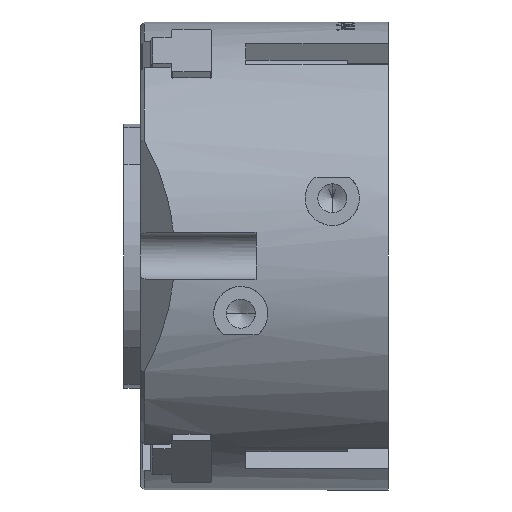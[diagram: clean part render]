
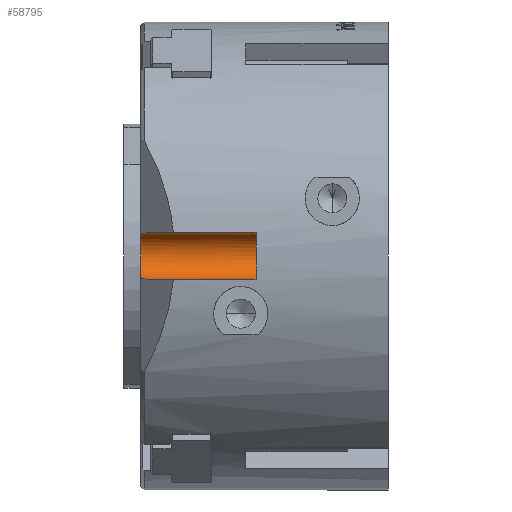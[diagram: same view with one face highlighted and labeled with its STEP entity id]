
A CAD part, left-side view. The second image highlights one B-rep face of the part: STEP entity #58795.
In plain terms, the highlighted cylindrical face has radius 7 mm (diameter 14 mm), a partial arc.
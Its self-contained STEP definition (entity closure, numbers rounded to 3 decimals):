
#1996 = AXIS2_PLACEMENT_3D ( 'NONE', #30596, #85258, #38436 ) ;
#4075 = CARTESIAN_POINT ( 'NONE',  ( -62., 39., 7. ) ) ;
#4347 = CIRCLE ( 'NONE', #75677, 7. ) ;
#8378 = VERTEX_POINT ( 'NONE', #28562 ) ;
#12221 = DIRECTION ( 'NONE',  ( 0., 1., 0. ) ) ;
#12641 = EDGE_CURVE ( 'NONE', #8378, #69696, #58183, .T. ) ;
#12899 = DIRECTION ( 'NONE',  ( 0., 0., 1. ) ) ;
#13167 = CYLINDRICAL_SURFACE ( 'NONE', #75537, 7. ) ;
#16803 = CARTESIAN_POINT ( 'NONE',  ( -62., 70., -7. ) ) ;
#22821 = CARTESIAN_POINT ( 'NONE',  ( -59., 73., 6.325 ) ) ;
#24705 = CARTESIAN_POINT ( 'NONE',  ( -62., 39., -7. ) ) ;
#28244 = ORIENTED_EDGE ( 'NONE', *, *, #47086, .F. ) ;
#28562 = CARTESIAN_POINT ( 'NONE',  ( -62., 39., 7. ) ) ;
#30596 = CARTESIAN_POINT ( 'NONE',  ( -62., 73., 0. ) ) ;
#31632 = VERTEX_POINT ( 'NONE', #22821 ) ;
#32594 = DIRECTION ( 'NONE',  ( 0., -1., 0. ) ) ;
#32935 = DIRECTION ( 'NONE',  ( 0., 1., 0. ) ) ;
#34509 = CARTESIAN_POINT ( 'NONE',  ( -62., 39., -7. ) ) ;
#35785 = EDGE_CURVE ( 'NONE', #69696, #31632, #90345, .T. ) ;
#36722 = CARTESIAN_POINT ( 'NONE',  ( -62., 39., 0. ) ) ;
#38436 = DIRECTION ( 'NONE',  ( 0., 0., 1. ) ) ;
#40032 = CARTESIAN_POINT ( 'NONE',  ( -59., 73., -6.325 ) ) ;
#41950 = EDGE_CURVE ( 'NONE', #67144, #73287, #88067, .T. ) ;
#43670 = CARTESIAN_POINT ( 'NONE',  ( -62., 70., -7. ) ) ;
#44581 = DIRECTION ( 'NONE',  ( 0., 0., 1. ) ) ;
#46079 = CARTESIAN_POINT ( 'NONE',  ( -59., 73., 6.325 ) ) ;
#47086 = EDGE_CURVE ( 'NONE', #47637, #31632, #89152, .T. ) ;
#47351 = CARTESIAN_POINT ( 'NONE',  ( -59., 73., -6.325 ) ) ;
#47637 = VERTEX_POINT ( 'NONE', #40032 ) ;
#58183 = LINE ( 'NONE', #4075, #78928 ) ;
#58393 = ORIENTED_EDGE ( 'NONE', *, *, #41950, .T. ) ;
#58663 = ORIENTED_EDGE ( 'NONE', *, *, #70271, .F. ) ;
#58795 = ADVANCED_FACE ( 'NONE', ( #75619 ), #13167, .F. ) ;
#59870 = CARTESIAN_POINT ( 'NONE',  ( -62., 39., 0. ) ) ;
#62475 = EDGE_LOOP ( 'NONE', ( #71765, #58393, #58663, #76788, #64916, #28244 ) ) ;
#63772 = CARTESIAN_POINT ( 'NONE',  ( -60.958, 71.042, -7. ) ) ;
#64916 = ORIENTED_EDGE ( 'NONE', *, *, #35785, .T. ) ;
#67144 = VERTEX_POINT ( 'NONE', #43670 ) ;
#69696 = VERTEX_POINT ( 'NONE', #79610 ) ;
#69770 = VECTOR ( 'NONE', #32594, 1000. ) ;
#70271 = EDGE_CURVE ( 'NONE', #8378, #73287, #4347, .T. ) ;
#70904 = CARTESIAN_POINT ( 'NONE',  ( -59.941, 72.059, -6.771 ) ) ;
#71765 = ORIENTED_EDGE ( 'NONE', *, *, #100275, .T. ) ;
#73287 = VERTEX_POINT ( 'NONE', #34509 ) ;
#75537 = AXIS2_PLACEMENT_3D ( 'NONE', #59870, #12221, #12899 ) ;
#75619 = FACE_OUTER_BOUND ( 'NONE', #62475, .T. ) ;
#75677 = AXIS2_PLACEMENT_3D ( 'NONE', #36722, #91390, #44581 ) ;
#76788 = ORIENTED_EDGE ( 'NONE', *, *, #12641, .T. ) ;
#77144 = CARTESIAN_POINT ( 'NONE',  ( -62., 70., 7. ) ) ;
#78928 = VECTOR ( 'NONE', #32935, 1000. ) ;
#79610 = CARTESIAN_POINT ( 'NONE',  ( -62., 70., 7. ) ) ;
#85026 = CARTESIAN_POINT ( 'NONE',  ( -60.958, 71.042, 7. ) ) ;
#85258 = DIRECTION ( 'NONE',  ( 0., -1., 0. ) ) ;
#88067 = LINE ( 'NONE', #24705, #69770 ) ;
#89152 = CIRCLE ( 'NONE', #1996, 7. ) ;
#90345 =( BOUNDED_CURVE ( )  B_SPLINE_CURVE ( 3, ( #77144, #85026, #92886, #46079 ),
 .UNSPECIFIED., .F., .F. ) 
 B_SPLINE_CURVE_WITH_KNOTS ( ( 4, 4 ),
 ( 4.712, 5.155 ),
 .UNSPECIFIED. ) 
 CURVE ( )  GEOMETRIC_REPRESENTATION_ITEM ( )  RATIONAL_B_SPLINE_CURVE ( ( 1., 0.984, 0.984, 1. ) ) 
 REPRESENTATION_ITEM ( '' )  );
#91390 = DIRECTION ( 'NONE',  ( 0., 1., 0. ) ) ;
#92886 = CARTESIAN_POINT ( 'NONE',  ( -59.941, 72.059, 6.771 ) ) ;
#99757 =( BOUNDED_CURVE ( )  B_SPLINE_CURVE ( 3, ( #47351, #70904, #63772, #16803 ),
 .UNSPECIFIED., .F., .F. ) 
 B_SPLINE_CURVE_WITH_KNOTS ( ( 4, 4 ),
 ( 1.128, 1.571 ),
 .UNSPECIFIED. ) 
 CURVE ( )  GEOMETRIC_REPRESENTATION_ITEM ( )  RATIONAL_B_SPLINE_CURVE ( ( 1., 0.984, 0.984, 1. ) ) 
 REPRESENTATION_ITEM ( '' )  );
#100275 = EDGE_CURVE ( 'NONE', #47637, #67144, #99757, .T. ) ;
